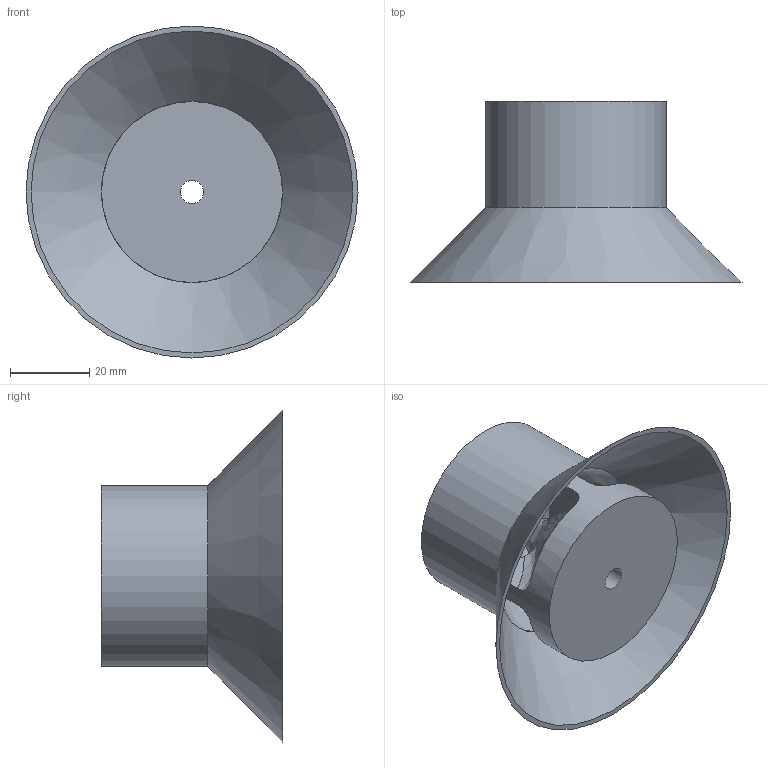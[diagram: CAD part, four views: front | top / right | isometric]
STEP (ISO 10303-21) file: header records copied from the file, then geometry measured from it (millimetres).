
FILE_DESCRIPTION(/* description */ (''),/* implementation_level */ '2;1');
FILE_NAME(/* name */ 'C:/Users/Owner/Desktop/KCAD 3Dp Fuel Filter Baffles Gen1/STEP Versions/1.8DIAx1.8 High Baffles STEP/1.8 Dia 23 CAL Baffle STEP.step',/* time_stamp */ '2019-06-09T15:37:06-04:00',/* author */ (''),/* organization */ (''),/* preprocessor_version */ 'ST-DEVELOPER v18',/* originating_system */ 'Autodesk Translation Framework v8.2.0.1029',/* authorisation */ '');
FILE_SCHEMA (('AUTOMOTIVE_DESIGN { 1 0 10303 214 3 1 1 }'));
Length unit declared in the file: inch
Products named in the file (1): baf 7
Bounding box: 83.82 x 45.72 x 83.82 mm (x, y, z)
Volume: 58079.6 mm3; surface area: 25238.2 mm2
Topology: 1 solids, 1 shells, 40 faces, 145 edges, 100 vertices
Faces by surface type: plane 15, bspline 14, cylinder 8, cone 2, torus 1
Full cylindrical faces by diameter (mm): 5.842 x2, 45.72 x2
Entity records: 2784 total; most frequent: CARTESIAN_POINT 1665, ORIENTED_EDGE 290, DIRECTION 154, EDGE_CURVE 145, VERTEX_POINT 100, B_SPLINE_CURVE_WITH_KNOTS 70, AXIS2_PLACEMENT_3D 62, EDGE_LOOP 43
